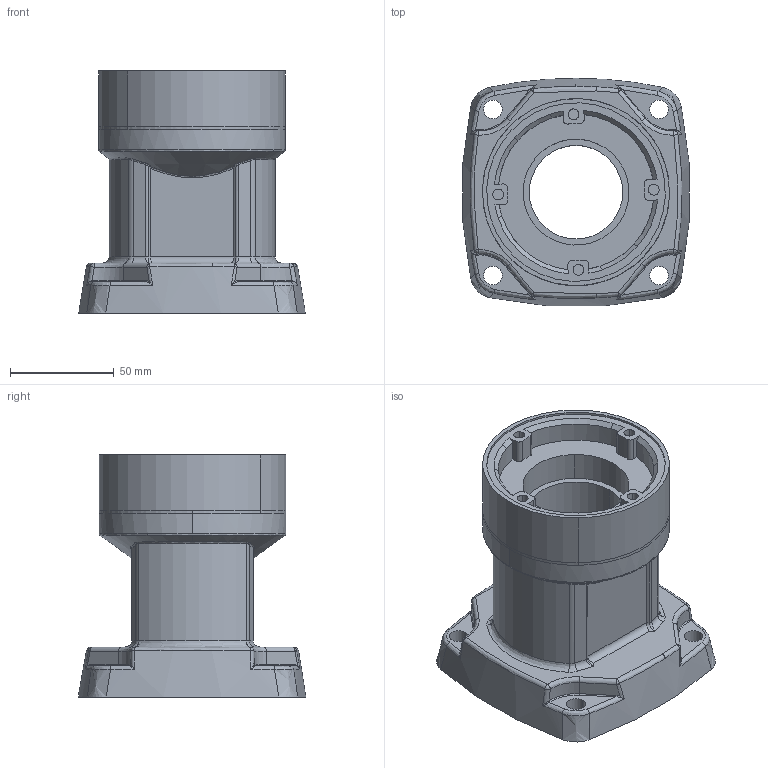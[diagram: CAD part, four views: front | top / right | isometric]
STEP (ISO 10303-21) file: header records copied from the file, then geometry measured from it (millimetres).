
FILE_DESCRIPTION (( 'STEP AP203' ), '1' );
FILE_NAME ('50-65-4900.STEP', '2019-10-03T05:27:31', ( 'User' ), ( 'Microsoft' ), 'SwSTEP 2.0', 'SolidWorks 2017', '' );
FILE_SCHEMA (( 'CONFIG_CONTROL_DESIGN' ));
Length unit declared in the file: millimetre
Products named in the file (3): 50-褫唅蛌菁釱; 50-眊极蟀諉ん3; 50-65-4900
Assembly tree (2 placements, depth 2):
  50-65-4900
    50-褫唅蛌菁釱
    50-眊极蟀諉ん3
Bounding box: 109.03 x 109.51 x 116.5 mm (x, y, z)
Volume: 276093.4 mm3; surface area: 100563.7 mm2
Topology: 2 solids, 2 shells, 356 faces, 923 edges, 572 vertices
Faces by surface type: cylinder 142, bspline 126, plane 71, cone 17
Entity records: 16423 total; most frequent: CARTESIAN_POINT 8186, ORIENTED_EDGE 1822, DIRECTION 1486, EDGE_CURVE 911, AXIS2_PLACEMENT_3D 607, VERTEX_POINT 572, EDGE_LOOP 381, CIRCLE 372
